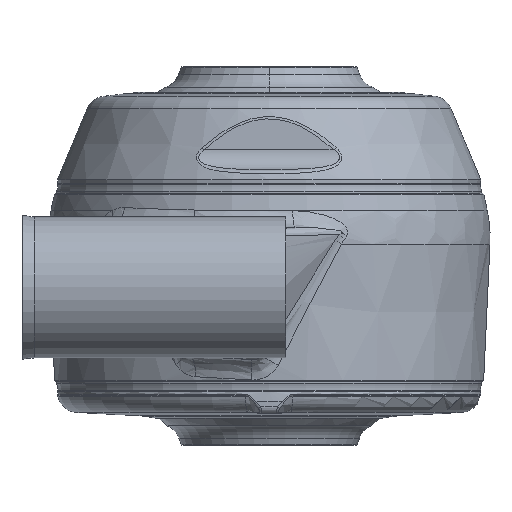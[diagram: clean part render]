
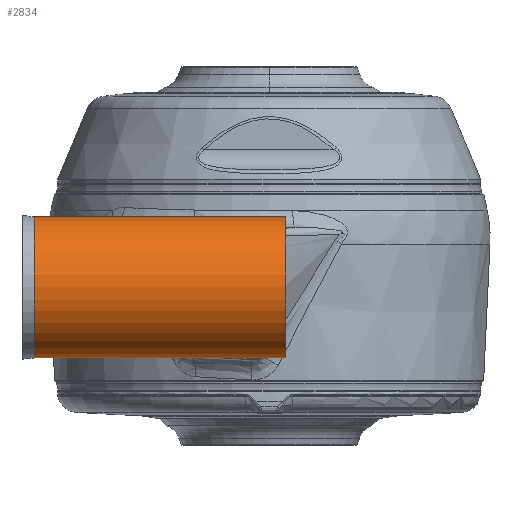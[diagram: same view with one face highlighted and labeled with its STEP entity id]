
A CAD part, front view. The second image highlights one B-rep face of the part: STEP entity #2834.
In plain terms, the highlighted cylindrical face has radius 10.5 mm (diameter 21 mm), a partial arc.
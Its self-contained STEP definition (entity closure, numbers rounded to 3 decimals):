
#272 = CIRCLE ( 'NONE', #5791, 10.5 ) ;
#1853 = CARTESIAN_POINT ( 'NONE',  ( -36.5, -52.5, 10.5 ) ) ;
#1989 = CYLINDRICAL_SURFACE ( 'NONE', #11046, 10.5 ) ;
#2477 = EDGE_CURVE ( 'NONE', #15582, #9077, #272, .T. ) ;
#2504 = ORIENTED_EDGE ( 'NONE', *, *, #2477, .T. ) ;
#2834 = ADVANCED_FACE ( 'NONE', ( #13125 ), #1989, .T. ) ;
#3154 = DIRECTION ( 'NONE',  ( 1., 0., 0. ) ) ;
#3317 = DIRECTION ( 'NONE',  ( 1., 0., 0. ) ) ;
#4568 = DIRECTION ( 'NONE',  ( 0., 0., 1. ) ) ;
#5039 = VERTEX_POINT ( 'NONE', #15897 ) ;
#5059 = LINE ( 'NONE', #10107, #9350 ) ;
#5182 = ORIENTED_EDGE ( 'NONE', *, *, #13764, .T. ) ;
#5791 = AXIS2_PLACEMENT_3D ( 'NONE', #10711, #3317, #8053 ) ;
#5924 = CARTESIAN_POINT ( 'NONE',  ( -35., -52.5, 10.5 ) ) ;
#7864 = ORIENTED_EDGE ( 'NONE', *, *, #14809, .F. ) ;
#7930 = EDGE_LOOP ( 'NONE', ( #2504, #5182, #11309, #7864 ) ) ;
#8053 = DIRECTION ( 'NONE',  ( 0., 0., -1. ) ) ;
#8238 = CIRCLE ( 'NONE', #11462, 10.5 ) ;
#8513 = CARTESIAN_POINT ( 'NONE',  ( 2.5, -52.5, 0. ) ) ;
#9077 = VERTEX_POINT ( 'NONE', #13554 ) ;
#9086 = DIRECTION ( 'NONE',  ( 1., 0., 0. ) ) ;
#9131 = VECTOR ( 'NONE', #3154, 1000. ) ;
#9350 = VECTOR ( 'NONE', #9086, 1000. ) ;
#10107 = CARTESIAN_POINT ( 'NONE',  ( -36.5, -52.5, -10.5 ) ) ;
#10602 = DIRECTION ( 'NONE',  ( 1., 0., 0. ) ) ;
#10711 = CARTESIAN_POINT ( 'NONE',  ( -35., -52.5, 0. ) ) ;
#11038 = DIRECTION ( 'NONE',  ( 0., 0., 1. ) ) ;
#11046 = AXIS2_PLACEMENT_3D ( 'NONE', #11940, #10602, #4568 ) ;
#11309 = ORIENTED_EDGE ( 'NONE', *, *, #12024, .T. ) ;
#11462 = AXIS2_PLACEMENT_3D ( 'NONE', #8513, #12194, #11038 ) ;
#11940 = CARTESIAN_POINT ( 'NONE',  ( -36.5, -52.5, 0. ) ) ;
#12024 = EDGE_CURVE ( 'NONE', #5039, #15638, #8238, .T. ) ;
#12194 = DIRECTION ( 'NONE',  ( -1., 0., 0. ) ) ;
#13125 = FACE_OUTER_BOUND ( 'NONE', #7930, .T. ) ;
#13229 = LINE ( 'NONE', #1853, #9131 ) ;
#13554 = CARTESIAN_POINT ( 'NONE',  ( -35., -52.5, -10.5 ) ) ;
#13764 = EDGE_CURVE ( 'NONE', #9077, #5039, #5059, .T. ) ;
#14809 = EDGE_CURVE ( 'NONE', #15582, #15638, #13229, .T. ) ;
#14837 = CARTESIAN_POINT ( 'NONE',  ( 2.5, -52.5, 10.5 ) ) ;
#15582 = VERTEX_POINT ( 'NONE', #5924 ) ;
#15638 = VERTEX_POINT ( 'NONE', #14837 ) ;
#15897 = CARTESIAN_POINT ( 'NONE',  ( 2.5, -52.5, -10.5 ) ) ;
